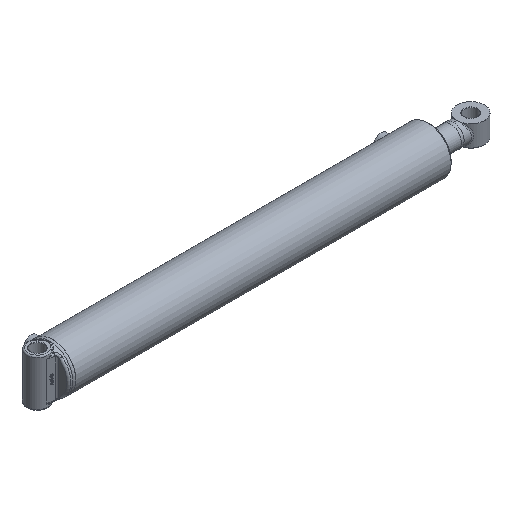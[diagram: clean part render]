
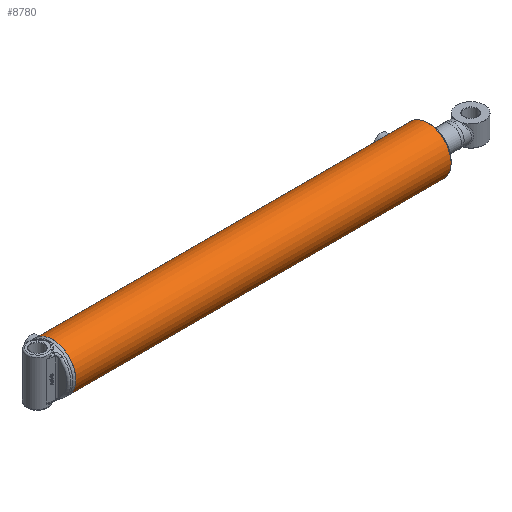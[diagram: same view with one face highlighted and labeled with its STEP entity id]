
A CAD part, isometric view. The second image highlights one B-rep face of the part: STEP entity #8780.
In plain terms, the highlighted cylindrical face has radius 56.356 mm (diameter 112.712 mm), a full revolution.
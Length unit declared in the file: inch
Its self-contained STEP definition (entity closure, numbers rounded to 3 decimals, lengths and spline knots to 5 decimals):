
#808=B_SPLINE_CURVE_WITH_KNOTS('',3,(#13133,#13134,#13135,#13136,#13137,
#13138,#13139,#13140,#13141,#13142),.UNSPECIFIED.,.F.,.F.,(4,2,2,2,4),(0.,
0.23942,0.47883,0.71824,0.95766),
 .UNSPECIFIED.);
#809=B_SPLINE_CURVE_WITH_KNOTS('',3,(#13143,#13144,#13145,#13146,#13147,
#13148,#13149,#13150,#13151,#13152,#13153,#13154,#13155,#13156,#13157,#13158,
#13159,#13160,#13161,#13162,#13163,#13164,#13165,#13166,#13167,#13168),
 .UNSPECIFIED.,.F.,.F.,(4,2,2,2,2,2,2,2,2,2,2,2,4),(0.95766,1.19707,
1.43649,1.6759,1.91532,2.15473,2.39415,
2.63356,2.87297,3.11239,3.3518,3.59122,
3.83063),.UNSPECIFIED.);
#810=B_SPLINE_CURVE_WITH_KNOTS('',3,(#13173,#13174,#13175,#13176,#13177,
#13178,#13179,#13180,#13181,#13182),.UNSPECIFIED.,.F.,.F.,(4,2,2,2,4),(0.,
0.23942,0.47883,0.71824,0.95766),
 .UNSPECIFIED.);
#811=B_SPLINE_CURVE_WITH_KNOTS('',3,(#13183,#13184,#13185,#13186,#13187,
#13188,#13189,#13190,#13191,#13192,#13193,#13194,#13195,#13196,#13197,#13198,
#13199,#13200,#13201,#13202,#13203,#13204,#13205,#13206,#13207,#13208),
 .UNSPECIFIED.,.F.,.F.,(4,2,2,2,2,2,2,2,2,2,2,2,4),(0.95766,1.19707,
1.43649,1.6759,1.91532,2.15473,2.39415,
2.63356,2.87297,3.11239,3.3518,3.59122,
3.83063),.UNSPECIFIED.);
#1096=FACE_BOUND('',#2595,.T.);
#1097=FACE_BOUND('',#2596,.T.);
#1352=LINE('',#13244,#1693);
#1693=VECTOR('',#10661,2.21875);
#2031=CYLINDRICAL_SURFACE('',#9525,2.21875);
#2119=FACE_OUTER_BOUND('',#2594,.T.);
#2594=EDGE_LOOP('',(#6139,#6140,#6141,#6142,#6143,#6144));
#2595=EDGE_LOOP('',(#6145,#6146));
#2596=EDGE_LOOP('',(#6147,#6148));
#3157=CIRCLE('',#9522,2.21875);
#3159=CIRCLE('',#9524,2.21875);
#3160=CIRCLE('',#9526,2.21875);
#3161=CIRCLE('',#9527,2.21875);
#3801=VERTEX_POINT('',#13130);
#3802=VERTEX_POINT('',#13132);
#3803=VERTEX_POINT('',#13170);
#3804=VERTEX_POINT('',#13172);
#3815=VERTEX_POINT('',#13237);
#3816=VERTEX_POINT('',#13238);
#3817=VERTEX_POINT('',#13243);
#3818=VERTEX_POINT('',#13245);
#4736=EDGE_CURVE('',#3802,#3801,#808,.T.);
#4737=EDGE_CURVE('',#3801,#3802,#809,.T.);
#4739=EDGE_CURVE('',#3804,#3803,#810,.T.);
#4740=EDGE_CURVE('',#3803,#3804,#811,.T.);
#4754=EDGE_CURVE('',#3815,#3816,#3157,.T.);
#4756=EDGE_CURVE('',#3816,#3815,#3159,.T.);
#4757=EDGE_CURVE('',#3815,#3817,#1352,.T.);
#4758=EDGE_CURVE('',#3818,#3817,#3160,.T.);
#4759=EDGE_CURVE('',#3817,#3818,#3161,.T.);
#6139=ORIENTED_EDGE('',*,*,#4754,.F.);
#6140=ORIENTED_EDGE('',*,*,#4757,.T.);
#6141=ORIENTED_EDGE('',*,*,#4758,.F.);
#6142=ORIENTED_EDGE('',*,*,#4759,.F.);
#6143=ORIENTED_EDGE('',*,*,#4757,.F.);
#6144=ORIENTED_EDGE('',*,*,#4756,.F.);
#6145=ORIENTED_EDGE('',*,*,#4736,.T.);
#6146=ORIENTED_EDGE('',*,*,#4737,.T.);
#6147=ORIENTED_EDGE('',*,*,#4739,.T.);
#6148=ORIENTED_EDGE('',*,*,#4740,.T.);
#8780=ADVANCED_FACE('',(#2119,#1096,#1097),#2031,.T.);
#9522=AXIS2_PLACEMENT_3D('',#13239,#10653,#10654);
#9524=AXIS2_PLACEMENT_3D('',#13241,#10657,#10658);
#9525=AXIS2_PLACEMENT_3D('',#13242,#10659,#10660);
#9526=AXIS2_PLACEMENT_3D('',#13246,#10662,#10663);
#9527=AXIS2_PLACEMENT_3D('',#13247,#10664,#10665);
#10653=DIRECTION('center_axis',(1.,0.,0.));
#10654=DIRECTION('ref_axis',(0.,-1.,0.));
#10657=DIRECTION('center_axis',(1.,0.,0.));
#10658=DIRECTION('ref_axis',(0.,-1.,0.));
#10659=DIRECTION('center_axis',(1.,0.,0.));
#10660=DIRECTION('ref_axis',(0.,-1.,0.));
#10661=DIRECTION('',(-1.,0.,0.));
#10662=DIRECTION('center_axis',(-1.,0.,0.));
#10663=DIRECTION('ref_axis',(0.,-1.,0.));
#10664=DIRECTION('center_axis',(-1.,0.,0.));
#10665=DIRECTION('ref_axis',(0.,-1.,0.));
#13130=CARTESIAN_POINT('',(0.75,0.,2.21875));
#13132=CARTESIAN_POINT('',(1.,-0.25,2.20462));
#13133=CARTESIAN_POINT('Ctrl Pts',(1.,-0.25,2.20462));
#13134=CARTESIAN_POINT('Ctrl Pts',(0.96858,-0.25,2.20462));
#13135=CARTESIAN_POINT('Ctrl Pts',(0.93509,-0.24372,
2.20536));
#13136=CARTESIAN_POINT('Ctrl Pts',(0.8735,-0.21819,
2.20803));
#13137=CARTESIAN_POINT('Ctrl Pts',(0.8454,-0.19896,
2.20992));
#13138=CARTESIAN_POINT('Ctrl Pts',(0.80104,-0.1546,
2.21347));
#13139=CARTESIAN_POINT('Ctrl Pts',(0.78181,-0.1265,
2.21536));
#13140=CARTESIAN_POINT('Ctrl Pts',(0.75628,-0.06491,
2.21801));
#13141=CARTESIAN_POINT('Ctrl Pts',(0.75,-0.03142,2.21875));
#13142=CARTESIAN_POINT('Ctrl Pts',(0.75,0.,2.21875));
#13143=CARTESIAN_POINT('Ctrl Pts',(0.75,0.,2.21875));
#13144=CARTESIAN_POINT('Ctrl Pts',(0.75,0.03142,2.21875));
#13145=CARTESIAN_POINT('Ctrl Pts',(0.75628,0.06491,2.21801));
#13146=CARTESIAN_POINT('Ctrl Pts',(0.78181,0.1265,
2.21536));
#13147=CARTESIAN_POINT('Ctrl Pts',(0.80104,0.1546,
2.21347));
#13148=CARTESIAN_POINT('Ctrl Pts',(0.8454,0.19896,
2.20992));
#13149=CARTESIAN_POINT('Ctrl Pts',(0.8735,0.21819,2.20803));
#13150=CARTESIAN_POINT('Ctrl Pts',(0.93509,0.24372,
2.20536));
#13151=CARTESIAN_POINT('Ctrl Pts',(0.96858,0.25,2.20462));
#13152=CARTESIAN_POINT('Ctrl Pts',(1.03142,0.25,2.20462));
#13153=CARTESIAN_POINT('Ctrl Pts',(1.06491,0.24372,2.20536));
#13154=CARTESIAN_POINT('Ctrl Pts',(1.1265,0.21819,2.20803));
#13155=CARTESIAN_POINT('Ctrl Pts',(1.1546,0.19896,2.20992));
#13156=CARTESIAN_POINT('Ctrl Pts',(1.19896,0.1546,2.21347));
#13157=CARTESIAN_POINT('Ctrl Pts',(1.21819,0.1265,2.21536));
#13158=CARTESIAN_POINT('Ctrl Pts',(1.24372,0.06491,
2.21801));
#13159=CARTESIAN_POINT('Ctrl Pts',(1.25,0.03142,2.21875));
#13160=CARTESIAN_POINT('Ctrl Pts',(1.25,-0.03142,2.21875));
#13161=CARTESIAN_POINT('Ctrl Pts',(1.24372,-0.06491,
2.21801));
#13162=CARTESIAN_POINT('Ctrl Pts',(1.21819,-0.1265,
2.21536));
#13163=CARTESIAN_POINT('Ctrl Pts',(1.19896,-0.1546,
2.21347));
#13164=CARTESIAN_POINT('Ctrl Pts',(1.1546,-0.19896,
2.20992));
#13165=CARTESIAN_POINT('Ctrl Pts',(1.1265,-0.21819,2.20803));
#13166=CARTESIAN_POINT('Ctrl Pts',(1.06491,-0.24372,2.20536));
#13167=CARTESIAN_POINT('Ctrl Pts',(1.03142,-0.25,2.20462));
#13168=CARTESIAN_POINT('Ctrl Pts',(1.,-0.25,2.20462));
#13170=CARTESIAN_POINT('',(33.87,0.,2.21875));
#13172=CARTESIAN_POINT('',(34.12,-0.25,2.20462));
#13173=CARTESIAN_POINT('Ctrl Pts',(34.12,-0.25,2.20462));
#13174=CARTESIAN_POINT('Ctrl Pts',(34.08858,-0.25,
2.20462));
#13175=CARTESIAN_POINT('Ctrl Pts',(34.05509,-0.24372,
2.20536));
#13176=CARTESIAN_POINT('Ctrl Pts',(33.9935,-0.21819,
2.20803));
#13177=CARTESIAN_POINT('Ctrl Pts',(33.9654,-0.19896,
2.20992));
#13178=CARTESIAN_POINT('Ctrl Pts',(33.92104,-0.1546,
2.21347));
#13179=CARTESIAN_POINT('Ctrl Pts',(33.90181,-0.1265,
2.21536));
#13180=CARTESIAN_POINT('Ctrl Pts',(33.87628,-0.06491,
2.21801));
#13181=CARTESIAN_POINT('Ctrl Pts',(33.87,-0.03142,2.21875));
#13182=CARTESIAN_POINT('Ctrl Pts',(33.87,0.,2.21875));
#13183=CARTESIAN_POINT('Ctrl Pts',(33.87,0.,2.21875));
#13184=CARTESIAN_POINT('Ctrl Pts',(33.87,0.03142,2.21875));
#13185=CARTESIAN_POINT('Ctrl Pts',(33.87628,0.06491,
2.21801));
#13186=CARTESIAN_POINT('Ctrl Pts',(33.90181,0.1265,2.21536));
#13187=CARTESIAN_POINT('Ctrl Pts',(33.92104,0.1546,2.21347));
#13188=CARTESIAN_POINT('Ctrl Pts',(33.9654,0.19896,2.20992));
#13189=CARTESIAN_POINT('Ctrl Pts',(33.9935,0.21819,2.20803));
#13190=CARTESIAN_POINT('Ctrl Pts',(34.05509,0.24372,2.20536));
#13191=CARTESIAN_POINT('Ctrl Pts',(34.08858,0.25,2.20462));
#13192=CARTESIAN_POINT('Ctrl Pts',(34.15142,0.25,2.20462));
#13193=CARTESIAN_POINT('Ctrl Pts',(34.18491,0.24372,2.20536));
#13194=CARTESIAN_POINT('Ctrl Pts',(34.2465,0.21819,2.20803));
#13195=CARTESIAN_POINT('Ctrl Pts',(34.2746,0.19896,2.20992));
#13196=CARTESIAN_POINT('Ctrl Pts',(34.31896,0.1546,2.21347));
#13197=CARTESIAN_POINT('Ctrl Pts',(34.33819,0.1265,2.21536));
#13198=CARTESIAN_POINT('Ctrl Pts',(34.36372,0.06491,
2.21801));
#13199=CARTESIAN_POINT('Ctrl Pts',(34.37,0.03142,2.21875));
#13200=CARTESIAN_POINT('Ctrl Pts',(34.37,-0.03142,2.21875));
#13201=CARTESIAN_POINT('Ctrl Pts',(34.36372,-0.06491,
2.21801));
#13202=CARTESIAN_POINT('Ctrl Pts',(34.33819,-0.1265,
2.21536));
#13203=CARTESIAN_POINT('Ctrl Pts',(34.31896,-0.1546,
2.21347));
#13204=CARTESIAN_POINT('Ctrl Pts',(34.2746,-0.19896,
2.20992));
#13205=CARTESIAN_POINT('Ctrl Pts',(34.2465,-0.21819,
2.20803));
#13206=CARTESIAN_POINT('Ctrl Pts',(34.18491,-0.24372,
2.20536));
#13207=CARTESIAN_POINT('Ctrl Pts',(34.15142,-0.25,
2.20462));
#13208=CARTESIAN_POINT('Ctrl Pts',(34.12,-0.25,2.20462));
#13237=CARTESIAN_POINT('',(35.61,2.21875,0.));
#13238=CARTESIAN_POINT('',(35.61,0.,-2.21875));
#13239=CARTESIAN_POINT('Origin',(35.61,0.,0.));
#13241=CARTESIAN_POINT('Origin',(35.61,0.,0.));
#13242=CARTESIAN_POINT('Origin',(0.,0.,0.));
#13243=CARTESIAN_POINT('',(0.11186,2.21875,0.));
#13244=CARTESIAN_POINT('',(0.,2.21875,0.));
#13245=CARTESIAN_POINT('',(0.11186,0.,2.21875));
#13246=CARTESIAN_POINT('Origin',(0.11186,0.,0.));
#13247=CARTESIAN_POINT('Origin',(0.11186,0.,0.));
